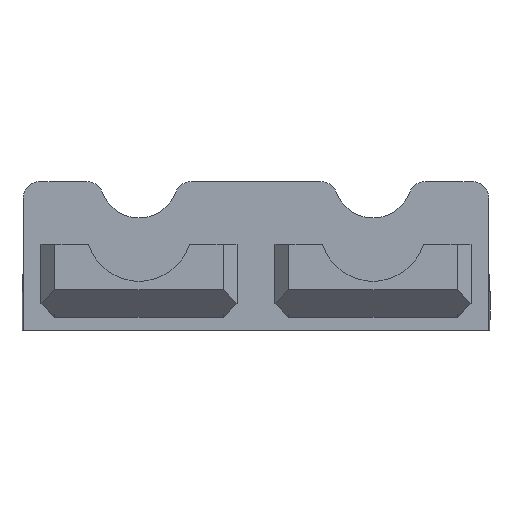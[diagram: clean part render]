
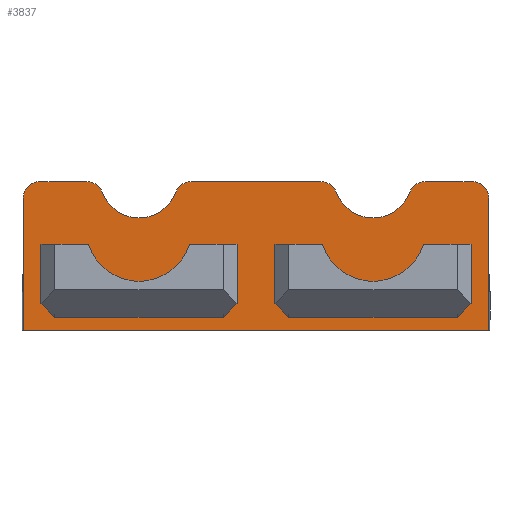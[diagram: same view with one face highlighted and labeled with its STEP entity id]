
A CAD part, left-side view. The second image highlights one B-rep face of the part: STEP entity #3837.
In plain terms, the highlighted planar face has unit normal (-1, 0, 0).
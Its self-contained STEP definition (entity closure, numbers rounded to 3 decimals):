
#15=FACE_BOUND('',#642,.T.);
#16=FACE_BOUND('',#643,.T.);
#167=PLANE('',#4217);
#399=FACE_OUTER_BOUND('',#641,.T.);
#641=EDGE_LOOP('',(#3342,#3343,#3344,#3345,#3346,#3347,#3348,#3349,#3350,
#3351,#3352,#3353,#3354,#3355));
#642=EDGE_LOOP('',(#3356,#3357,#3358,#3359,#3360,#3361));
#643=EDGE_LOOP('',(#3362,#3363,#3364,#3365,#3366,#3367));
#1002=LINE('',#6340,#1404);
#1005=LINE('',#6347,#1407);
#1006=LINE('',#6351,#1408);
#1007=LINE('',#6359,#1409);
#1008=LINE('',#6366,#1410);
#1009=LINE('',#6367,#1411);
#1010=LINE('',#6370,#1412);
#1011=LINE('',#6372,#1413);
#1012=LINE('',#6376,#1414);
#1013=LINE('',#6378,#1415);
#1014=LINE('',#6379,#1416);
#1015=LINE('',#6382,#1417);
#1016=LINE('',#6384,#1418);
#1017=LINE('',#6386,#1419);
#1018=LINE('',#6388,#1420);
#1019=LINE('',#6391,#1421);
#1404=VECTOR('',#5242,10.);
#1407=VECTOR('',#5247,10.);
#1408=VECTOR('',#5250,10.);
#1409=VECTOR('',#5257,10.);
#1410=VECTOR('',#5264,10.);
#1411=VECTOR('',#5265,10.);
#1412=VECTOR('',#5266,10.);
#1413=VECTOR('',#5267,10.);
#1414=VECTOR('',#5270,10.);
#1415=VECTOR('',#5271,10.);
#1416=VECTOR('',#5272,10.);
#1417=VECTOR('',#5273,10.);
#1418=VECTOR('',#5274,10.);
#1419=VECTOR('',#5275,10.);
#1420=VECTOR('',#5276,10.);
#1421=VECTOR('',#5279,10.);
#1613=CIRCLE('',#4214,3.);
#1615=CIRCLE('',#4218,3.);
#1616=CIRCLE('',#4219,3.);
#1617=CIRCLE('',#4220,7.);
#1618=CIRCLE('',#4221,3.);
#1619=CIRCLE('',#4222,3.);
#1620=CIRCLE('',#4223,7.);
#1621=CIRCLE('',#4224,3.);
#1622=CIRCLE('',#4225,9.5);
#1623=CIRCLE('',#4226,9.5);
#1875=VERTEX_POINT('',#6330);
#1876=VERTEX_POINT('',#6331);
#1879=VERTEX_POINT('',#6339);
#1881=VERTEX_POINT('',#6345);
#1882=VERTEX_POINT('',#6346);
#1883=VERTEX_POINT('',#6348);
#1884=VERTEX_POINT('',#6350);
#1885=VERTEX_POINT('',#6352);
#1886=VERTEX_POINT('',#6354);
#1887=VERTEX_POINT('',#6356);
#1888=VERTEX_POINT('',#6358);
#1889=VERTEX_POINT('',#6360);
#1890=VERTEX_POINT('',#6362);
#1891=VERTEX_POINT('',#6365);
#1892=VERTEX_POINT('',#6368);
#1893=VERTEX_POINT('',#6369);
#1894=VERTEX_POINT('',#6371);
#1895=VERTEX_POINT('',#6373);
#1896=VERTEX_POINT('',#6375);
#1897=VERTEX_POINT('',#6377);
#1898=VERTEX_POINT('',#6380);
#1899=VERTEX_POINT('',#6381);
#1900=VERTEX_POINT('',#6383);
#1901=VERTEX_POINT('',#6385);
#1902=VERTEX_POINT('',#6387);
#1903=VERTEX_POINT('',#6389);
#2378=EDGE_CURVE('',#1875,#1876,#1613,.T.);
#2382=EDGE_CURVE('',#1879,#1876,#1002,.T.);
#2385=EDGE_CURVE('',#1881,#1882,#1005,.T.);
#2386=EDGE_CURVE('',#1883,#1882,#1615,.T.);
#2387=EDGE_CURVE('',#1883,#1884,#1006,.T.);
#2388=EDGE_CURVE('',#1885,#1884,#1616,.T.);
#2389=EDGE_CURVE('',#1885,#1886,#1617,.T.);
#2390=EDGE_CURVE('',#1887,#1886,#1618,.T.);
#2391=EDGE_CURVE('',#1887,#1888,#1007,.T.);
#2392=EDGE_CURVE('',#1889,#1888,#1619,.T.);
#2393=EDGE_CURVE('',#1889,#1890,#1620,.T.);
#2394=EDGE_CURVE('',#1879,#1890,#1621,.T.);
#2395=EDGE_CURVE('',#1875,#1891,#1008,.T.);
#2396=EDGE_CURVE('',#1881,#1891,#1009,.T.);
#2397=EDGE_CURVE('',#1892,#1893,#1010,.T.);
#2398=EDGE_CURVE('',#1893,#1894,#1011,.T.);
#2399=EDGE_CURVE('',#1894,#1895,#1622,.T.);
#2400=EDGE_CURVE('',#1895,#1896,#1012,.T.);
#2401=EDGE_CURVE('',#1896,#1897,#1013,.T.);
#2402=EDGE_CURVE('',#1897,#1892,#1014,.T.);
#2403=EDGE_CURVE('',#1898,#1899,#1015,.T.);
#2404=EDGE_CURVE('',#1899,#1900,#1016,.T.);
#2405=EDGE_CURVE('',#1900,#1901,#1017,.T.);
#2406=EDGE_CURVE('',#1901,#1902,#1018,.T.);
#2407=EDGE_CURVE('',#1902,#1903,#1623,.T.);
#2408=EDGE_CURVE('',#1903,#1898,#1019,.T.);
#3342=ORIENTED_EDGE('',*,*,#2385,.T.);
#3343=ORIENTED_EDGE('',*,*,#2386,.F.);
#3344=ORIENTED_EDGE('',*,*,#2387,.T.);
#3345=ORIENTED_EDGE('',*,*,#2388,.F.);
#3346=ORIENTED_EDGE('',*,*,#2389,.T.);
#3347=ORIENTED_EDGE('',*,*,#2390,.F.);
#3348=ORIENTED_EDGE('',*,*,#2391,.T.);
#3349=ORIENTED_EDGE('',*,*,#2392,.F.);
#3350=ORIENTED_EDGE('',*,*,#2393,.T.);
#3351=ORIENTED_EDGE('',*,*,#2394,.F.);
#3352=ORIENTED_EDGE('',*,*,#2382,.T.);
#3353=ORIENTED_EDGE('',*,*,#2378,.F.);
#3354=ORIENTED_EDGE('',*,*,#2395,.T.);
#3355=ORIENTED_EDGE('',*,*,#2396,.F.);
#3356=ORIENTED_EDGE('',*,*,#2397,.T.);
#3357=ORIENTED_EDGE('',*,*,#2398,.T.);
#3358=ORIENTED_EDGE('',*,*,#2399,.T.);
#3359=ORIENTED_EDGE('',*,*,#2400,.T.);
#3360=ORIENTED_EDGE('',*,*,#2401,.T.);
#3361=ORIENTED_EDGE('',*,*,#2402,.T.);
#3362=ORIENTED_EDGE('',*,*,#2403,.T.);
#3363=ORIENTED_EDGE('',*,*,#2404,.T.);
#3364=ORIENTED_EDGE('',*,*,#2405,.T.);
#3365=ORIENTED_EDGE('',*,*,#2406,.T.);
#3366=ORIENTED_EDGE('',*,*,#2407,.T.);
#3367=ORIENTED_EDGE('',*,*,#2408,.T.);
#3837=ADVANCED_FACE('',(#399,#15,#16),#167,.F.);
#4214=AXIS2_PLACEMENT_3D('',#6332,#5234,#5235);
#4217=AXIS2_PLACEMENT_3D('',#6344,#5245,#5246);
#4218=AXIS2_PLACEMENT_3D('',#6349,#5248,#5249);
#4219=AXIS2_PLACEMENT_3D('',#6353,#5251,#5252);
#4220=AXIS2_PLACEMENT_3D('',#6355,#5253,#5254);
#4221=AXIS2_PLACEMENT_3D('',#6357,#5255,#5256);
#4222=AXIS2_PLACEMENT_3D('',#6361,#5258,#5259);
#4223=AXIS2_PLACEMENT_3D('',#6363,#5260,#5261);
#4224=AXIS2_PLACEMENT_3D('',#6364,#5262,#5263);
#4225=AXIS2_PLACEMENT_3D('',#6374,#5268,#5269);
#4226=AXIS2_PLACEMENT_3D('',#6390,#5277,#5278);
#5234=DIRECTION('center_axis',(1.,0.,0.));
#5235=DIRECTION('ref_axis',(0.,0.707,0.707));
#5242=DIRECTION('',(0.,1.,0.));
#5245=DIRECTION('center_axis',(1.,0.,0.));
#5246=DIRECTION('ref_axis',(0.,1.,0.));
#5247=DIRECTION('',(0.,0.,1.));
#5248=DIRECTION('center_axis',(1.,0.,0.));
#5249=DIRECTION('ref_axis',(0.,-0.707,0.707));
#5250=DIRECTION('',(0.,1.,0.));
#5251=DIRECTION('center_axis',(1.,0.,0.));
#5252=DIRECTION('ref_axis',(0.,0.572,0.82));
#5253=DIRECTION('center_axis',(1.,0.,0.));
#5254=DIRECTION('ref_axis',(0.,1.,0.));
#5255=DIRECTION('center_axis',(1.,0.,0.));
#5256=DIRECTION('ref_axis',(0.,-0.572,0.82));
#5257=DIRECTION('',(0.,1.,0.));
#5258=DIRECTION('center_axis',(1.,0.,0.));
#5259=DIRECTION('ref_axis',(0.,0.572,0.82));
#5260=DIRECTION('center_axis',(1.,0.,0.));
#5261=DIRECTION('ref_axis',(0.,1.,0.));
#5262=DIRECTION('center_axis',(1.,0.,0.));
#5263=DIRECTION('ref_axis',(0.,-0.572,0.82));
#5264=DIRECTION('',(0.,0.,-1.));
#5265=DIRECTION('',(0.,1.,0.));
#5266=DIRECTION('',(0.,0.,1.));
#5267=DIRECTION('',(0.,-1.,0.));
#5268=DIRECTION('center_axis',(-1.,0.,0.));
#5269=DIRECTION('ref_axis',(0.,1.,0.));
#5270=DIRECTION('',(0.,-1.,0.));
#5271=DIRECTION('',(0.,0.,-1.));
#5272=DIRECTION('',(0.,1.,0.));
#5273=DIRECTION('',(0.,0.,-1.));
#5274=DIRECTION('',(0.,1.,0.));
#5275=DIRECTION('',(0.,0.,1.));
#5276=DIRECTION('',(0.,-1.,0.));
#5277=DIRECTION('center_axis',(-1.,0.,0.));
#5278=DIRECTION('ref_axis',(0.,1.,0.));
#5279=DIRECTION('',(0.,-1.,0.));
#6330=CARTESIAN_POINT('',(96.15,62.8,-150.76));
#6331=CARTESIAN_POINT('',(96.15,59.8,-147.76));
#6332=CARTESIAN_POINT('Origin',(96.15,59.8,-150.76));
#6339=CARTESIAN_POINT('',(96.15,51.382,-147.76));
#6340=CARTESIAN_POINT('',(96.15,21.2,-147.76));
#6344=CARTESIAN_POINT('Origin',(96.15,0.,-159.942));
#6345=CARTESIAN_POINT('',(96.15,-20.8,-174.478));
#6346=CARTESIAN_POINT('',(96.15,-20.8,-150.76));
#6347=CARTESIAN_POINT('',(96.15,-20.8,-153.851));
#6348=CARTESIAN_POINT('',(96.15,-17.8,-147.76));
#6349=CARTESIAN_POINT('Origin',(96.15,-17.8,-150.76));
#6350=CARTESIAN_POINT('',(96.15,-9.382,-147.76));
#6351=CARTESIAN_POINT('',(96.15,-20.8,-147.76));
#6352=CARTESIAN_POINT('',(96.15,-6.567,-149.722));
#6353=CARTESIAN_POINT('Origin',(96.15,-9.382,-150.76));
#6354=CARTESIAN_POINT('',(96.15,6.567,-149.722));
#6355=CARTESIAN_POINT('Origin',(96.15,0.,-147.298));
#6356=CARTESIAN_POINT('',(96.15,9.382,-147.76));
#6357=CARTESIAN_POINT('Origin',(96.15,9.382,-150.76));
#6358=CARTESIAN_POINT('',(96.15,32.618,-147.76));
#6359=CARTESIAN_POINT('',(96.15,21.2,-147.76));
#6360=CARTESIAN_POINT('',(96.15,35.433,-149.722));
#6361=CARTESIAN_POINT('Origin',(96.15,32.618,-150.76));
#6362=CARTESIAN_POINT('',(96.15,48.567,-149.722));
#6363=CARTESIAN_POINT('Origin',(96.15,42.,-147.298));
#6364=CARTESIAN_POINT('Origin',(96.15,51.382,-150.76));
#6365=CARTESIAN_POINT('',(96.15,62.8,-174.478));
#6366=CARTESIAN_POINT('',(96.15,62.8,-166.033));
#6367=CARTESIAN_POINT('',(96.15,-20.8,-174.478));
#6368=CARTESIAN_POINT('',(96.15,15.1,-172.15));
#6369=CARTESIAN_POINT('',(96.15,15.1,-159.));
#6370=CARTESIAN_POINT('',(96.15,15.1,-166.046));
#6371=CARTESIAN_POINT('',(96.15,9.062,-159.));
#6372=CARTESIAN_POINT('',(96.15,0.,-159.));
#6373=CARTESIAN_POINT('',(96.15,-9.062,-159.));
#6374=CARTESIAN_POINT('Origin',(96.15,0.,-156.15));
#6375=CARTESIAN_POINT('',(96.15,-15.1,-159.));
#6376=CARTESIAN_POINT('',(96.15,0.,-159.));
#6377=CARTESIAN_POINT('',(96.15,-15.1,-172.15));
#6378=CARTESIAN_POINT('',(96.15,-15.1,-160.));
#6379=CARTESIAN_POINT('',(96.15,0.,-172.15));
#6380=CARTESIAN_POINT('',(96.15,26.9,-159.));
#6381=CARTESIAN_POINT('',(96.15,26.9,-172.15));
#6382=CARTESIAN_POINT('',(96.15,26.9,-160.));
#6383=CARTESIAN_POINT('',(96.15,57.1,-172.15));
#6384=CARTESIAN_POINT('',(96.15,42.,-172.15));
#6385=CARTESIAN_POINT('',(96.15,57.1,-159.));
#6386=CARTESIAN_POINT('',(96.15,57.1,-166.046));
#6387=CARTESIAN_POINT('',(96.15,51.062,-159.));
#6388=CARTESIAN_POINT('',(96.15,42.,-159.));
#6389=CARTESIAN_POINT('',(96.15,32.938,-159.));
#6390=CARTESIAN_POINT('Origin',(96.15,42.,-156.15));
#6391=CARTESIAN_POINT('',(96.15,42.,-159.));
